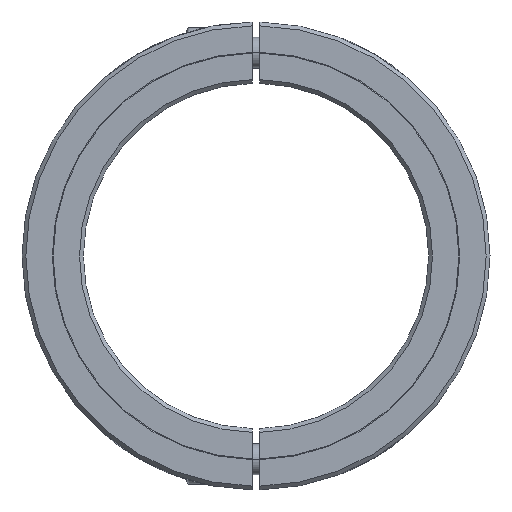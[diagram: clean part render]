
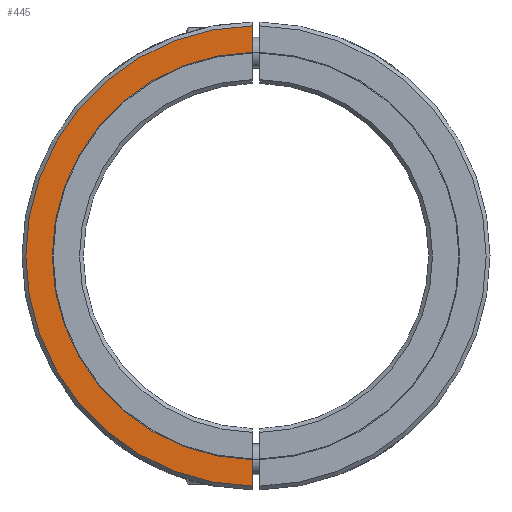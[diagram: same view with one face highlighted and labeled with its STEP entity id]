
A CAD part, left-side view. The second image highlights one B-rep face of the part: STEP entity #445.
In plain terms, the highlighted planar face has unit normal (-1, 0, 0).
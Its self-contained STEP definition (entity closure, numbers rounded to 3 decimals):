
#26=CARTESIAN_POINT('',(-9.5,0.,0.));
#27=DIRECTION('',(-1.,0.,0.));
#28=DIRECTION('',(0.,0.019,1.));
#29=AXIS2_PLACEMENT_3D('',#26,#27,#28);
#31=DIRECTION('',(0.,0.,-1.));
#32=VECTOR('',#31,6.901);
#33=CARTESIAN_POINT('',(-9.5,1.,-53.091));
#34=LINE('',#33,#32);
#35=DIRECTION('',(0.,0.,-1.));
#36=VECTOR('',#35,6.901);
#37=CARTESIAN_POINT('',(-9.5,1.,59.992));
#38=LINE('',#37,#36);
#211=CARTESIAN_POINT('',(-9.5,0.,0.));
#212=DIRECTION('',(1.,0.,0.));
#213=DIRECTION('',(0.,0.017,-1.));
#214=AXIS2_PLACEMENT_3D('',#211,#212,#213);
#390=CARTESIAN_POINT('',(-9.5,1.,-59.992));
#391=CARTESIAN_POINT('',(-9.5,1.,59.992));
#392=VERTEX_POINT('',#390);
#393=VERTEX_POINT('',#391);
#422=CARTESIAN_POINT('',(-9.5,1.,53.091));
#423=CARTESIAN_POINT('',(-9.5,1.,-53.091));
#424=VERTEX_POINT('',#422);
#425=VERTEX_POINT('',#423);
#430=CARTESIAN_POINT('',(-9.5,0.,0.));
#431=DIRECTION('',(1.,0.,0.));
#432=DIRECTION('',(0.,0.,-1.));
#433=AXIS2_PLACEMENT_3D('',#430,#431,#432);
#434=PLANE('',#433);
#436=ORIENTED_EDGE('',*,*,#435,.T.);
#438=ORIENTED_EDGE('',*,*,#437,.T.);
#440=ORIENTED_EDGE('',*,*,#439,.T.);
#442=ORIENTED_EDGE('',*,*,#441,.T.);
#443=EDGE_LOOP('',(#436,#438,#440,#442));
#444=FACE_OUTER_BOUND('',#443,.F.);
#445=ADVANCED_FACE('',(#444),#434,.F.);
#30=CIRCLE('',#29,53.1);
#215=CIRCLE('',#214,60.);
#435=EDGE_CURVE('',#424,#425,#30,.T.);
#437=EDGE_CURVE('',#425,#392,#34,.T.);
#439=EDGE_CURVE('',#392,#393,#215,.T.);
#441=EDGE_CURVE('',#393,#424,#38,.T.);
